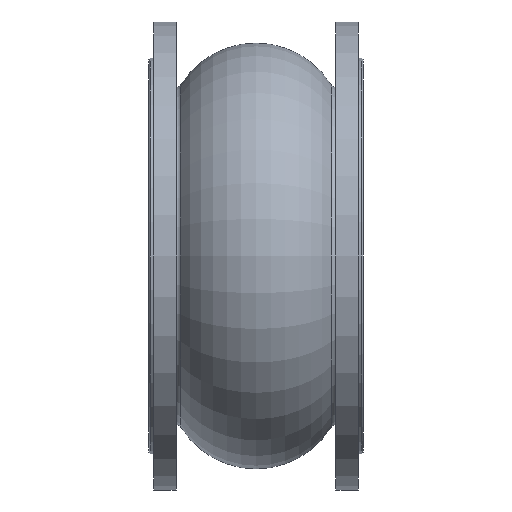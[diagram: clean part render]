
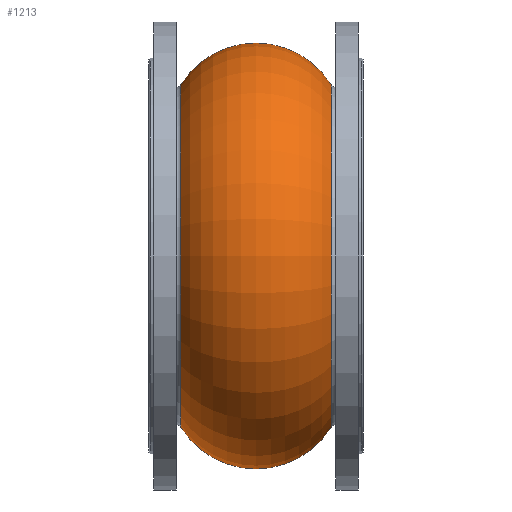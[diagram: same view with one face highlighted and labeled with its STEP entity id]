
A CAD part, front view. The second image highlights one B-rep face of the part: STEP entity #1213.
In plain terms, the highlighted toroidal (fillet/blend) face has major radius 154.152 mm and minor radius 109.697 mm.
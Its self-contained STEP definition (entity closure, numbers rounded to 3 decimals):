
#775 = VERTEX_POINT ( 'NONE', #2589 ) ;
#820 = EDGE_CURVE ( 'NONE', #775, #990, #2868, .T. ) ;
#829 = EDGE_CURVE ( 'NONE', #875, #990, #2745, .T. ) ;
#850 = VERTEX_POINT ( 'NONE', #2769 ) ;
#873 = EDGE_CURVE ( 'NONE', #850, #775, #2754, .T. ) ;
#875 = VERTEX_POINT ( 'NONE', #2802 ) ;
#897 = EDGE_CURVE ( 'NONE', #850, #875, #3023, .T. ) ;
#990 = VERTEX_POINT ( 'NONE', #2914 ) ;
#1053 = EDGE_LOOP ( 'NONE', ( #1075, #1101, #1285, #1071 ) ) ;
#1071 = ORIENTED_EDGE ( 'NONE', *, *, #829, .F. ) ;
#1075 = ORIENTED_EDGE ( 'NONE', *, *, #897, .F. ) ;
#1101 = ORIENTED_EDGE ( 'NONE', *, *, #873, .T. ) ;
#1213 = ADVANCED_FACE ( 'NONE', ( #3461 ), #3465, .T. ) ;
#1285 = ORIENTED_EDGE ( 'NONE', *, *, #820, .T. ) ;
#2589 = CARTESIAN_POINT ( 'NONE',  ( 93.002, 0., 212.323 ) ) ;
#2695 = CARTESIAN_POINT ( 'NONE',  ( 0., 0., 154.152 ) ) ;
#2740 = DIRECTION ( 'NONE',  ( 0., 0., 1. ) ) ;
#2741 = DIRECTION ( 'NONE',  ( -1., 0., 0. ) ) ;
#2742 = CARTESIAN_POINT ( 'NONE',  ( -93.002, 0., 0. ) ) ;
#2745 = CIRCLE ( 'NONE', #2858, 212.323 ) ;
#2751 = DIRECTION ( 'NONE',  ( -1., 0., 0. ) ) ;
#2754 = CIRCLE ( 'NONE', #2813, 212.323 ) ;
#2769 = CARTESIAN_POINT ( 'NONE',  ( 93.002, 0., -212.323 ) ) ;
#2802 = CARTESIAN_POINT ( 'NONE',  ( -93.002, 0., -212.323 ) ) ;
#2813 = AXIS2_PLACEMENT_3D ( 'NONE', #2823, #2751, #2843 ) ;
#2823 = CARTESIAN_POINT ( 'NONE',  ( 93.002, 0., 0. ) ) ;
#2843 = DIRECTION ( 'NONE',  ( 0., 0., 1. ) ) ;
#2858 = AXIS2_PLACEMENT_3D ( 'NONE', #2742, #2741, #2740 ) ;
#2859 = AXIS2_PLACEMENT_3D ( 'NONE', #2695, #2867, #2866 ) ;
#2866 = DIRECTION ( 'NONE',  ( 0., 0., -1. ) ) ;
#2867 = DIRECTION ( 'NONE',  ( 0., -1., 0. ) ) ;
#2868 = CIRCLE ( 'NONE', #2859, 109.697 ) ;
#2896 = DIRECTION ( 'NONE',  ( 0., 0., 1. ) ) ;
#2914 = CARTESIAN_POINT ( 'NONE',  ( -93.002, 0., 212.323 ) ) ;
#2948 = AXIS2_PLACEMENT_3D ( 'NONE', #3022, #3021, #2896 ) ;
#3021 = DIRECTION ( 'NONE',  ( 0., 1., 0. ) ) ;
#3022 = CARTESIAN_POINT ( 'NONE',  ( 0., 0., -154.152 ) ) ;
#3023 = CIRCLE ( 'NONE', #2948, 109.697 ) ;
#3436 = CARTESIAN_POINT ( 'NONE',  ( 0., 0., 0. ) ) ;
#3461 = FACE_OUTER_BOUND ( 'NONE', #1053, .T. ) ;
#3465 = TOROIDAL_SURFACE ( 'NONE', #3468, 154.152, 109.697 ) ;
#3468 = AXIS2_PLACEMENT_3D ( 'NONE', #3436, #3483, #3482 ) ;
#3482 = DIRECTION ( 'NONE',  ( 0., 0., 1. ) ) ;
#3483 = DIRECTION ( 'NONE',  ( -1., 0., 0. ) ) ;
